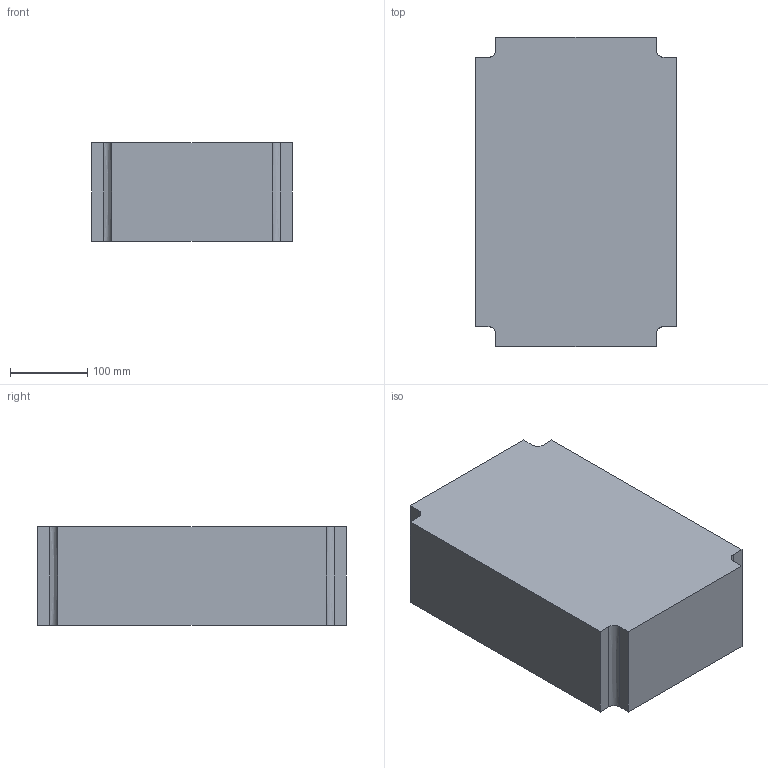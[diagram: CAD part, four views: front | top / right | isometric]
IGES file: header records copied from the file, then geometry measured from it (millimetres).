
Start section:  PTC IGES file: j3-11-22k-case2.igs
Global section: file name: j3-11-22k-case2.igs; native system: Pro/ENGINEER by Parametric Technology Corporation; preprocessor: 2006420; author: JE18792; organization: Unknown; date: 20101129.152513; units: millimetre
Bounding box: 260 x 400 x 127.5 mm (x, y, z)
Volume: 12225096.9 mm3; surface area: 388714.8 mm2
Topology: 1 solids, 1 shells, 23 faces, 60 edges, 40 vertices
Faces by surface type: bspline 23
